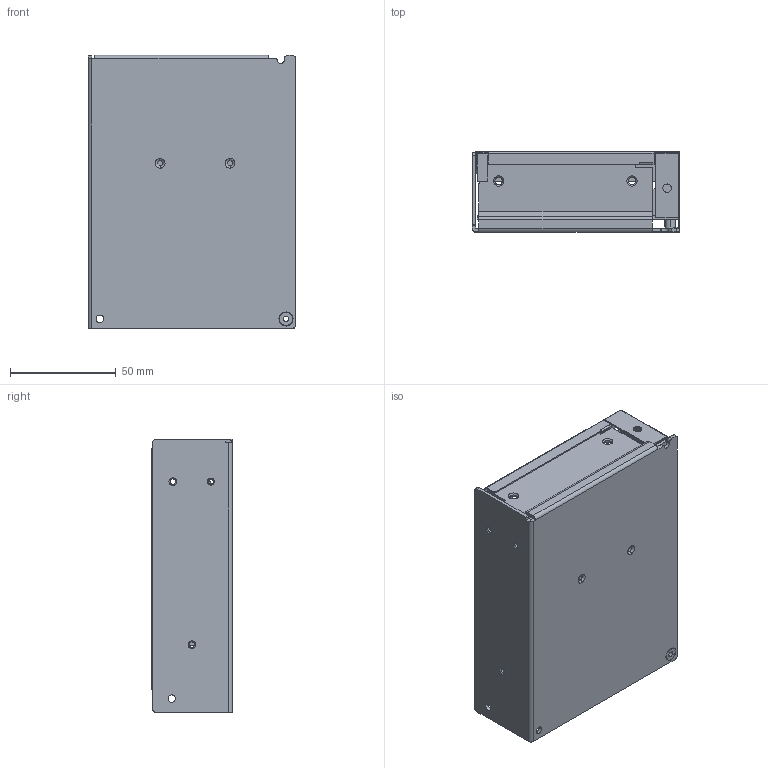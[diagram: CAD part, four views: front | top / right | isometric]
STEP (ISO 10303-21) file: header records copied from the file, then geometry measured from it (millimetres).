
FILE_DESCRIPTION(('Creo Elements/Direct Modeling STEP Export'),'2;1');
FILE_NAME('rq-65.stp','2016-07-13T 8:34:02',(''),(''),'PTC Creo Elements/Direct Modeling STEP processor for AP214 (Solid Model)','PTC Creo Elements/Direct Modeling 19.0 09-May-2014 (C) Parametric Technology GmbH','');
FILE_SCHEMA(('AUTOMOTIVE_DESIGN { 1 0 10303 214 1 1 1 1 }'));
Length unit declared in the file: millimetre
Products named in the file (7): 903-D_11.PRT; 90T-T_6.PRT; CUUU_1.PRT; RG-65-PCB_1.PRT; DUNZI-S-8P_1.PRT; RQ-65_ASM_9.ASM; RQ-65_ASM.stp
Assembly tree (6 placements, depth 3):
  RQ-65_ASM.stp
    RQ-65_ASM_9.ASM
      DUNZI-S-8P_1.PRT
      RG-65-PCB_1.PRT
      CUUU_1.PRT
      90T-T_6.PRT
      903-D_11.PRT
Bounding box: 98.1 x 37.84 x 129.17 mm (x, y, z)
Volume: 64790.2 mm3; surface area: 97627.7 mm2
Topology: 5 solids, 5 shells, 1558 faces, 4504 edges, 2936 vertices
Faces by surface type: cylinder 1146, plane 338, bspline 40, torus 24, cone 10
Entity records: 60121 total; most frequent: CARTESIAN_POINT 9466, ORIENTED_EDGE 9008, DIRECTION 7602, EDGE_CURVE 4504, VERTEX_POINT 2936, AXIS2_PLACEMENT_3D 2802, EDGE_LOOP 2566, VECTOR 1998
